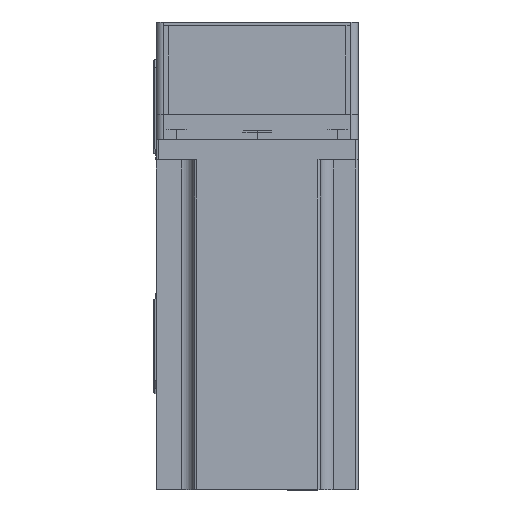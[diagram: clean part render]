
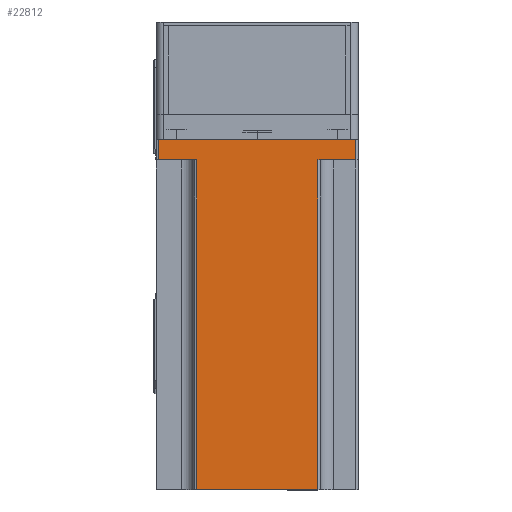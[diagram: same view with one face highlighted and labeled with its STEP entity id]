
A CAD part, top view. The second image highlights one B-rep face of the part: STEP entity #22812.
In plain terms, the highlighted planar face has unit normal (0, 0, 1) as drawn and (0, 1, 0) by its records, which use the part's own axes.
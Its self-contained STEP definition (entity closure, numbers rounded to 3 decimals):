
#567 = EDGE_CURVE ( 'NONE', #26869, #11502, #4851, .T. ) ;
#2210 = EDGE_CURVE ( 'NONE', #44373, #49354, #30458, .T. ) ;
#2395 = ORIENTED_EDGE ( 'NONE', *, *, #11873, .T. ) ;
#4440 = VECTOR ( 'NONE', #40652, 1000. ) ;
#4704 = CARTESIAN_POINT ( 'NONE',  ( 24., 40., 138.3 ) ) ;
#4851 = LINE ( 'NONE', #18679, #47236 ) ;
#5501 = DIRECTION ( 'NONE',  ( -1., 0., 0. ) ) ;
#5605 = DIRECTION ( 'NONE',  ( 1., 0., 0. ) ) ;
#6672 = CARTESIAN_POINT ( 'NONE',  ( -39., 40., 8. ) ) ;
#8036 = CARTESIAN_POINT ( 'NONE',  ( -24., 40., 138.3 ) ) ;
#8864 = LINE ( 'NONE', #47983, #49970 ) ;
#10939 = VERTEX_POINT ( 'NONE', #32778 ) ;
#11240 = ORIENTED_EDGE ( 'NONE', *, *, #19880, .T. ) ;
#11502 = VERTEX_POINT ( 'NONE', #25039 ) ;
#11873 = EDGE_CURVE ( 'NONE', #23516, #49354, #25683, .T. ) ;
#12121 = FACE_OUTER_BOUND ( 'NONE', #27767, .T. ) ;
#12896 = CARTESIAN_POINT ( 'NONE',  ( -39., 40., 138.3 ) ) ;
#14487 = ORIENTED_EDGE ( 'NONE', *, *, #29646, .T. ) ;
#16035 = VECTOR ( 'NONE', #5501, 1000. ) ;
#16233 = ORIENTED_EDGE ( 'NONE', *, *, #2210, .F. ) ;
#17113 = EDGE_CURVE ( 'NONE', #23516, #33723, #35442, .T. ) ;
#18046 = CARTESIAN_POINT ( 'NONE',  ( 39., 40., 8. ) ) ;
#18679 = CARTESIAN_POINT ( 'NONE',  ( -25., 40., 8. ) ) ;
#19149 = LINE ( 'NONE', #23417, #39162 ) ;
#19880 = EDGE_CURVE ( 'NONE', #32888, #26869, #49254, .T. ) ;
#20117 = DIRECTION ( 'NONE',  ( 0., 0., -1. ) ) ;
#20230 = CARTESIAN_POINT ( 'NONE',  ( -39., 40., 0. ) ) ;
#22445 = CARTESIAN_POINT ( 'NONE',  ( 25., 40., 8. ) ) ;
#22722 = PLANE ( 'NONE',  #43294 ) ;
#22812 = ADVANCED_FACE ( 'NONE', ( #12121 ), #22722, .F. ) ;
#22885 = CARTESIAN_POINT ( 'NONE',  ( 40., 40., 138.3 ) ) ;
#23417 = CARTESIAN_POINT ( 'NONE',  ( 40., 40., 0. ) ) ;
#23516 = VERTEX_POINT ( 'NONE', #36163 ) ;
#25039 = CARTESIAN_POINT ( 'NONE',  ( -24., 40., 8. ) ) ;
#25683 = LINE ( 'NONE', #4704, #4440 ) ;
#26534 = CARTESIAN_POINT ( 'NONE',  ( 40., 40., 138.3 ) ) ;
#26836 = ORIENTED_EDGE ( 'NONE', *, *, #17113, .F. ) ;
#26866 = DIRECTION ( 'NONE',  ( 1., 0., 0. ) ) ;
#26869 = VERTEX_POINT ( 'NONE', #6672 ) ;
#26928 = ORIENTED_EDGE ( 'NONE', *, *, #32830, .T. ) ;
#27422 = VECTOR ( 'NONE', #47461, 1000. ) ;
#27767 = EDGE_LOOP ( 'NONE', ( #45192, #14487, #26836, #2395, #16233, #31372, #26928, #11240 ) ) ;
#29646 = EDGE_CURVE ( 'NONE', #11502, #33723, #38080, .T. ) ;
#30458 = LINE ( 'NONE', #22445, #16035 ) ;
#30640 = VECTOR ( 'NONE', #40860, 1000. ) ;
#31372 = ORIENTED_EDGE ( 'NONE', *, *, #34973, .T. ) ;
#32778 = CARTESIAN_POINT ( 'NONE',  ( 39., 40., 0. ) ) ;
#32830 = EDGE_CURVE ( 'NONE', #10939, #32888, #19149, .T. ) ;
#32888 = VERTEX_POINT ( 'NONE', #20230 ) ;
#33723 = VERTEX_POINT ( 'NONE', #8036 ) ;
#34561 = DIRECTION ( 'NONE',  ( -1., 0., 0. ) ) ;
#34973 = EDGE_CURVE ( 'NONE', #44373, #10939, #8864, .T. ) ;
#35442 = LINE ( 'NONE', #26534, #44762 ) ;
#36163 = CARTESIAN_POINT ( 'NONE',  ( 24., 40., 138.3 ) ) ;
#38080 = LINE ( 'NONE', #51443, #27422 ) ;
#39162 = VECTOR ( 'NONE', #47239, 1000. ) ;
#40652 = DIRECTION ( 'NONE',  ( 0., 0., -1. ) ) ;
#40860 = DIRECTION ( 'NONE',  ( 0., 0., 1. ) ) ;
#42170 = CARTESIAN_POINT ( 'NONE',  ( 24., 40., 8. ) ) ;
#43294 = AXIS2_PLACEMENT_3D ( 'NONE', #22885, #50682, #26866 ) ;
#44373 = VERTEX_POINT ( 'NONE', #18046 ) ;
#44762 = VECTOR ( 'NONE', #34561, 1000. ) ;
#45192 = ORIENTED_EDGE ( 'NONE', *, *, #567, .T. ) ;
#47236 = VECTOR ( 'NONE', #5605, 1000. ) ;
#47239 = DIRECTION ( 'NONE',  ( -1., 0., 0. ) ) ;
#47461 = DIRECTION ( 'NONE',  ( 0., 0., 1. ) ) ;
#47983 = CARTESIAN_POINT ( 'NONE',  ( 39., 40., 138.3 ) ) ;
#49254 = LINE ( 'NONE', #12896, #30640 ) ;
#49354 = VERTEX_POINT ( 'NONE', #42170 ) ;
#49970 = VECTOR ( 'NONE', #20117, 1000. ) ;
#50682 = DIRECTION ( 'NONE',  ( 0., -1., 0. ) ) ;
#51443 = CARTESIAN_POINT ( 'NONE',  ( -24., 40., 138.3 ) ) ;
